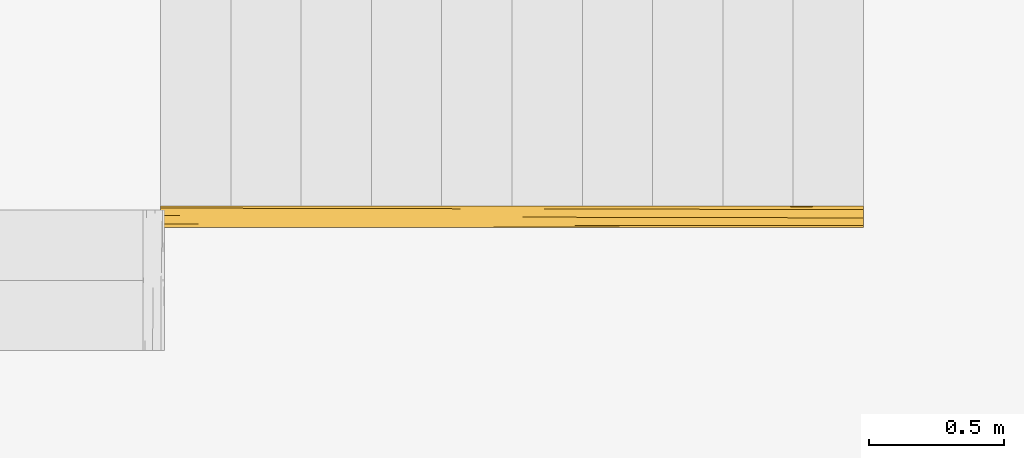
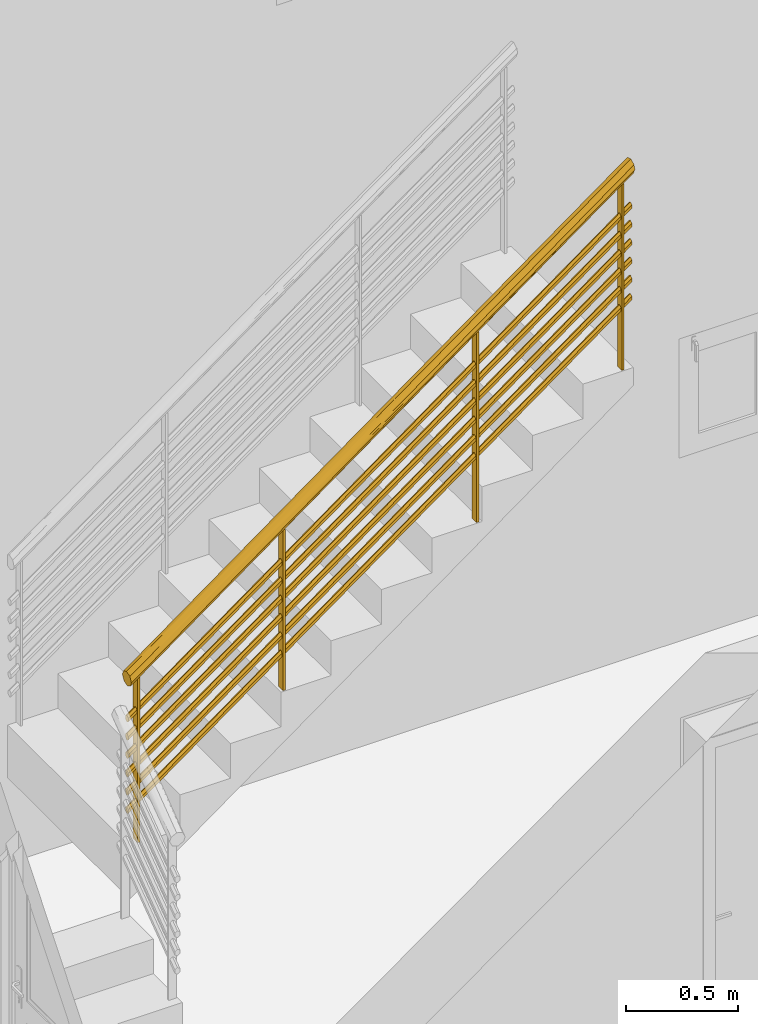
# One storey, part 17 of 20: 1 railing, 1 element without a shape of its own.
"""IFC2X3 building model written with IfcOpenShell, lengths in metres."""

from ifc_helpers import new_model, entity, si_unit, converted_unit, derived_unit, direction, frame, origin, place, context, subcontext, project, spatial, faceted_brep, element, aggregate, save


model = new_model("IFC2X3")

# Units and contexts
model_context = context("Model", 3, precision=1e-05, world=origin(), true_north=direction((6.12303176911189e-17, 1.0)))
body_context = subcontext(model_context, "Body", "Model", "MODEL_VIEW")
ifc_project = project(units=[si_unit("LENGTHUNIT", "METRE"), si_unit("AREAUNIT", "SQUARE_METRE"), si_unit("VOLUMEUNIT", "CUBIC_METRE"), converted_unit("PLANEANGLEUNIT", "DEGREE", entity("IfcRatioMeasure", 0.0174532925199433), si_unit("PLANEANGLEUNIT", "RADIAN"), dimensions=[0, 0, 0, 0, 0, 0, 0]), si_unit("MASSUNIT", "GRAM", prefix="KILO"), derived_unit("MASSDENSITYUNIT", [(si_unit("MASSUNIT", "GRAM", prefix="KILO"), 1), (si_unit("LENGTHUNIT", "METRE"), -3)]), derived_unit("MOMENTOFINERTIAUNIT", [(si_unit("LENGTHUNIT", "METRE"), 4)]), si_unit("TIMEUNIT", "SECOND"), si_unit("FREQUENCYUNIT", "HERTZ"), si_unit("THERMODYNAMICTEMPERATUREUNIT", "DEGREE_CELSIUS"), derived_unit("THERMALTRANSMITTANCEUNIT", [(si_unit("MASSUNIT", "GRAM", prefix="KILO"), 1), (si_unit("THERMODYNAMICTEMPERATUREUNIT", "KELVIN"), -1), (si_unit("TIMEUNIT", "SECOND"), -3)]), derived_unit("VOLUMETRICFLOWRATEUNIT", [(si_unit("LENGTHUNIT", "METRE"), 3), (si_unit("TIMEUNIT", "SECOND"), -1)]), si_unit("ELECTRICCURRENTUNIT", "AMPERE"), si_unit("ELECTRICVOLTAGEUNIT", "VOLT"), si_unit("POWERUNIT", "WATT"), si_unit("FORCEUNIT", "NEWTON", prefix="KILO"), si_unit("ILLUMINANCEUNIT", "LUX"), si_unit("LUMINOUSFLUXUNIT", "LUMEN"), si_unit("LUMINOUSINTENSITYUNIT", "CANDELA"), derived_unit("USERDEFINED", [(si_unit("MASSUNIT", "GRAM", prefix="KILO"), -1), (si_unit("LENGTHUNIT", "METRE"), -2), (si_unit("TIMEUNIT", "SECOND"), 3), (si_unit("LUMINOUSFLUXUNIT", "LUMEN"), 1)]), derived_unit("LINEARVELOCITYUNIT", [(si_unit("LENGTHUNIT", "METRE"), 1), (si_unit("TIMEUNIT", "SECOND"), -1)]), si_unit("PRESSUREUNIT", "PASCAL"), derived_unit("USERDEFINED", [(si_unit("LENGTHUNIT", "METRE"), -2), (si_unit("MASSUNIT", "GRAM", prefix="KILO"), 1), (si_unit("TIMEUNIT", "SECOND"), -2)]), derived_unit("LINEARFORCEUNIT", [(si_unit("MASSUNIT", "GRAM", prefix="KILO"), 1), (si_unit("LENGTHUNIT", "METRE"), 1), (si_unit("TIMEUNIT", "SECOND"), -2), (si_unit("LENGTHUNIT", "METRE"), -1)]), derived_unit("PLANARFORCEUNIT", [(si_unit("MASSUNIT", "GRAM", prefix="KILO"), 1), (si_unit("LENGTHUNIT", "METRE"), 1), (si_unit("TIMEUNIT", "SECOND"), -2), (si_unit("LENGTHUNIT", "METRE"), -2)])], contexts=[model_context])

# Site, building, storey
site_placement = place(None, origin())
site = spatial("IfcSite", under=ifc_project, at=site_placement, Name="Surface", CompositionType="ELEMENT")
building_placement = place(site_placement, origin())
building = spatial("IfcBuilding", under=site, at=building_placement, CompositionType="ELEMENT")
storey_placement = place(building_placement, origin())
storey = spatial("IfcBuildingStorey", under=building, at=storey_placement, Name="Niveau rdc", CompositionType="ELEMENT", Elevation=-1.94916083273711e-14)

# Stair, railing
stair_placement = place(storey_placement, origin())
stair = element("IfcStair", 1, at=stair_placement, inside=storey, Name="Escalier coulé sur place:Escalier", ObjectType="Escalier coulé sur place:Monobloc", ShapeType="NOTDEFINED")
railing_placement = place(stair_placement, frame((2.97197986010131, 5.90104310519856, 0.757142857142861)))
railing = element("IfcRailing", 2, at=railing_placement, Name="Garde-corps:Type Bateau", ObjectType="Garde-corps:Type Bateau", PredefinedType="NOTDEFINED", context=body_context, shape_type="Brep", body=[
    faceted_brep([(0.793999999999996, 0.0615952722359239, 1.44511960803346), (0.793999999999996, 0.0215952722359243, 1.44511960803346), (0.805999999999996, 0.0215952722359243, 1.44511960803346), (0.805999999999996, 0.0615952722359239, 1.44511960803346), (0.793999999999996, 0.0615952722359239, 0.567857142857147), (0.805999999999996, 0.0615952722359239, 0.567857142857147), (0.805999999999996, 0.0215952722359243, 0.567857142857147), (0.793999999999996, 0.0215952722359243, 0.567857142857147)], [[[0, 1, 2, 3]], [[4, 5, 6, 7]], [[3, 5, 4, 0]], [[2, 6, 5, 3]], [[1, 7, 6, 2]], [[0, 4, 7, 1]]]),
    faceted_brep([(1.794, 0.0615952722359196, 2.17314158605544), (1.794, 0.02159527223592, 2.17314158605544), (1.806, 0.02159527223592, 2.17314158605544), (1.806, 0.0615952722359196, 2.17314158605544), (1.794, 0.0615952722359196, 1.13571428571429), (1.806, 0.0615952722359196, 1.13571428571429), (1.806, 0.02159527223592, 1.13571428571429), (1.794, 0.02159527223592, 1.13571428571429)], [[[0, 1, 2, 3]], [[4, 5, 6, 7]], [[3, 5, 4, 0]], [[2, 6, 5, 3]], [[1, 7, 6, 2]], [[0, 4, 7, 1]]]),
    faceted_brep([(0.0439999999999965, 0.0615952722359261, 0.899103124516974), (0.0439999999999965, 0.0215952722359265, 0.899103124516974), (0.0559999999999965, 0.0215952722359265, 0.899103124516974), (0.0559999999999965, 0.0615952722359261, 0.899103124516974), (0.0439999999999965, 0.0615952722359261, 0.0), (0.0559999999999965, 0.0615952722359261, 0.0), (0.0559999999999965, 0.0215952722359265, 0.0), (0.0439999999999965, 0.0215952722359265, 0.0)], [[[0, 1, 2, 3]], [[4, 5, 6, 7]], [[3, 5, 4, 0]], [[2, 6, 5, 3]], [[1, 7, 6, 2]], [[0, 4, 7, 1]]]),
    faceted_brep([(2.544, 0.0615952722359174, 2.71915806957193), (2.544, 0.0215952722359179, 2.71915806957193), (2.556, 0.0215952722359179, 2.71915806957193), (2.556, 0.0615952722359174, 2.71915806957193), (2.544, 0.0615952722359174, 1.70357142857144), (2.556, 0.0615952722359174, 1.70357142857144), (2.556, 0.0215952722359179, 1.70357142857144), (2.544, 0.0215952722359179, 1.70357142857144)], [[[0, 1, 2, 3]], [[4, 5, 6, 7]], [[3, 5, 4, 0]], [[2, 6, 5, 3]], [[1, 7, 6, 2]], [[0, 4, 7, 1]]]),
    faceted_brep([(2.6, 0.0286048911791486, 2.56502603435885), (2.6, 0.0318524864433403, 2.56270677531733), (2.6, 0.035100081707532, 2.5603875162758), (2.6, 0.0383476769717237, 2.55806825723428), (2.6, 0.0415952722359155, 2.55574899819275), (2.6, 0.0448428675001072, 2.55806825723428), (2.6, 0.0480904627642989, 2.5603875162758), (2.6, 0.0513380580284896, 2.56270677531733), (2.6, 0.0545856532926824, 2.56502603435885), (2.6, 0.0545856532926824, 2.5696645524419), (2.6, 0.0545856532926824, 2.57430307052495), (2.6, 0.0545856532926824, 2.57894158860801), (2.6, 0.0545856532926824, 2.58358010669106), (2.6, 0.0513380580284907, 2.58589936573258), (2.6, 0.0480904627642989, 2.58821862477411), (2.6, 0.0444889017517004, 2.59079066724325), (2.6, 0.0415952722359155, 2.59285714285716), (2.6, 0.0387016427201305, 2.59079066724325), (2.6, 0.0358080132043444, 2.58872419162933), (2.6, 0.0322064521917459, 2.5861521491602), (2.6, 0.0286048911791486, 2.58358010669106), (2.6, 0.0286048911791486, 2.57894158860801), (2.6, 0.0286048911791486, 2.57430307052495), (2.6, 0.0286048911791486, 2.5696645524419), (0.0, 0.0286048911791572, 0.672168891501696), (0.0, 0.0286048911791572, 0.676807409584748), (0.0, 0.0286048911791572, 0.681445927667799), (0.0, 0.0286048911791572, 0.68608444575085), (0.0, 0.0286048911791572, 0.690722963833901), (0.0, 0.0318524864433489, 0.693042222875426), (0.0, 0.0351000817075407, 0.695361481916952), (0.0, 0.0383476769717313, 0.697680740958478), (0.0, 0.0415952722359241, 0.700000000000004), (0.0, 0.0448428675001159, 0.697680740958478), (0.0, 0.0480904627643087, 0.695361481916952), (0.0, 0.0513380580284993, 0.693042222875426), (0.0, 0.054585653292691, 0.690722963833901), (0.0, 0.054585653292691, 0.68608444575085), (0.0, 0.054585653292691, 0.681445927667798), (0.0, 0.054585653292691, 0.676807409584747), (0.0, 0.054585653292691, 0.672168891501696), (0.0, 0.0509840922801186, 0.669596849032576), (0.0, 0.047382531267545, 0.667024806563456), (0.0, 0.0444889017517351, 0.664958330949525), (0.0, 0.0415952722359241, 0.662891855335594), (0.0, 0.0387016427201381, 0.664958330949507), (0.0, 0.0351000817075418, 0.667530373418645), (0.0, 0.0318524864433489, 0.669849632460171)], [[[0, 1, 2, 3, 4, 5, 6, 7, 8, 9, 10, 11, 12, 13, 14, 15, 16, 17, 18, 19, 20, 21, 22, 23]], [[24, 25, 26, 27, 28, 29, 30, 31, 32, 33, 34, 35, 36, 37, 38, 39, 40, 41, 42, 43, 44, 45, 46, 47]], [[6, 5, 4, 44, 43, 42, 41, 40, 8, 7]], [[14, 13, 12, 36, 35, 34, 33, 32, 16, 15]], [[11, 10, 9, 8, 40, 39, 38, 37, 36, 12]], [[18, 17, 16, 32, 31, 30, 29, 28, 20, 19]], [[22, 21, 20, 28, 27, 26, 25, 24, 0, 23]], [[45, 44, 4, 3, 2, 1, 0, 24, 47, 46]]]),
    faceted_brep([(2.6, 0.0286048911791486, 2.46502603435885), (2.6, 0.0318524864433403, 2.46270677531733), (2.6, 0.035100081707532, 2.4603875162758), (2.6, 0.0383476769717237, 2.45806825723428), (2.6, 0.0415952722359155, 2.45574899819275), (2.6, 0.0448428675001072, 2.45806825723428), (2.6, 0.0480904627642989, 2.4603875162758), (2.6, 0.0513380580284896, 2.46270677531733), (2.6, 0.0545856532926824, 2.46502603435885), (2.6, 0.0545856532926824, 2.4696645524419), (2.6, 0.0545856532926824, 2.47430307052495), (2.6, 0.0545856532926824, 2.47894158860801), (2.6, 0.0545856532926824, 2.48358010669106), (2.6, 0.0513380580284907, 2.48589936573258), (2.6, 0.0480904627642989, 2.48821862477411), (2.6, 0.0444889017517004, 2.49079066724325), (2.6, 0.0415952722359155, 2.49285714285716), (2.6, 0.0387016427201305, 2.49079066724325), (2.6, 0.0358080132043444, 2.48872419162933), (2.6, 0.0322064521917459, 2.4861521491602), (2.6, 0.0286048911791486, 2.48358010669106), (2.6, 0.0286048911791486, 2.47894158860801), (2.6, 0.0286048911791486, 2.47430307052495), (2.6, 0.0286048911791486, 2.4696645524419), (0.0, 0.0286048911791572, 0.572168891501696), (0.0, 0.0286048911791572, 0.576807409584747), (0.0, 0.0286048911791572, 0.581445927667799), (0.0, 0.0286048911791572, 0.58608444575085), (0.0, 0.0286048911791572, 0.590722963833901), (0.0, 0.0318524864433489, 0.593042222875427), (0.0, 0.0351000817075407, 0.595361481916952), (0.0, 0.0383476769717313, 0.597680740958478), (0.0, 0.0415952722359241, 0.600000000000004), (0.0, 0.0448428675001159, 0.597680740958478), (0.0, 0.0480904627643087, 0.595361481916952), (0.0, 0.0513380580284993, 0.593042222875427), (0.0, 0.054585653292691, 0.590722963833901), (0.0, 0.054585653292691, 0.58608444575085), (0.0, 0.054585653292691, 0.581445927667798), (0.0, 0.054585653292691, 0.576807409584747), (0.0, 0.054585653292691, 0.572168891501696), (0.0, 0.0509840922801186, 0.569596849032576), (0.0, 0.047382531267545, 0.567024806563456), (0.0, 0.0444889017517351, 0.564958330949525), (0.0, 0.0415952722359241, 0.562891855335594), (0.0, 0.0387016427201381, 0.564958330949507), (0.0, 0.0351000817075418, 0.567530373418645), (0.0, 0.0318524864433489, 0.569849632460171)], [[[0, 1, 2, 3, 4, 5, 6, 7, 8, 9, 10, 11, 12, 13, 14, 15, 16, 17, 18, 19, 20, 21, 22, 23]], [[24, 25, 26, 27, 28, 29, 30, 31, 32, 33, 34, 35, 36, 37, 38, 39, 40, 41, 42, 43, 44, 45, 46, 47]], [[6, 5, 4, 44, 43, 42, 41, 40, 8, 7]], [[14, 13, 12, 36, 35, 34, 33, 32, 16, 15]], [[11, 10, 9, 8, 40, 39, 38, 37, 36, 12]], [[18, 17, 16, 32, 31, 30, 29, 28, 20, 19]], [[22, 21, 20, 28, 27, 26, 25, 24, 0, 23]], [[45, 44, 4, 3, 2, 1, 0, 24, 47, 46]]]),
    faceted_brep([(2.6, 0.0286048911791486, 2.36502603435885), (2.6, 0.0318524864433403, 2.36270677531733), (2.6, 0.035100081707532, 2.3603875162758), (2.6, 0.0383476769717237, 2.35806825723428), (2.6, 0.0415952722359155, 2.35574899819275), (2.6, 0.0448428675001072, 2.35806825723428), (2.6, 0.0480904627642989, 2.3603875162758), (2.6, 0.0513380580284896, 2.36270677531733), (2.6, 0.0545856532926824, 2.36502603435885), (2.6, 0.0545856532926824, 2.3696645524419), (2.6, 0.0545856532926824, 2.37430307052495), (2.6, 0.0545856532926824, 2.37894158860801), (2.6, 0.0545856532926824, 2.38358010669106), (2.6, 0.0513380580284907, 2.38589936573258), (2.6, 0.0480904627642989, 2.38821862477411), (2.6, 0.0444889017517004, 2.39079066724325), (2.6, 0.0415952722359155, 2.39285714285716), (2.6, 0.0387016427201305, 2.39079066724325), (2.6, 0.0358080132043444, 2.38872419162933), (2.6, 0.0322064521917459, 2.3861521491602), (2.6, 0.0286048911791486, 2.38358010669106), (2.6, 0.0286048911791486, 2.37894158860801), (2.6, 0.0286048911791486, 2.37430307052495), (2.6, 0.0286048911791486, 2.3696645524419), (0.0, 0.0286048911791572, 0.472168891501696), (0.0, 0.0286048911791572, 0.476807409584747), (0.0, 0.0286048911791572, 0.481445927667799), (0.0, 0.0286048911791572, 0.48608444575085), (0.0, 0.0286048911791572, 0.490722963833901), (0.0, 0.0318524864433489, 0.493042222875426), (0.0, 0.0351000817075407, 0.495361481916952), (0.0, 0.0383476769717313, 0.497680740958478), (0.0, 0.0415952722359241, 0.500000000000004), (0.0, 0.0448428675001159, 0.497680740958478), (0.0, 0.0480904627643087, 0.495361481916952), (0.0, 0.0513380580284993, 0.493042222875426), (0.0, 0.054585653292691, 0.490722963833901), (0.0, 0.054585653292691, 0.48608444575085), (0.0, 0.054585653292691, 0.481445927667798), (0.0, 0.054585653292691, 0.476807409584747), (0.0, 0.054585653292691, 0.472168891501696), (0.0, 0.0509840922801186, 0.469596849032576), (0.0, 0.047382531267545, 0.467024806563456), (0.0, 0.0444889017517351, 0.464958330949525), (0.0, 0.0415952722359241, 0.462891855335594), (0.0, 0.0387016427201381, 0.464958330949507), (0.0, 0.0351000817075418, 0.467530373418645), (0.0, 0.0318524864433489, 0.469849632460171)], [[[0, 1, 2, 3, 4, 5, 6, 7, 8, 9, 10, 11, 12, 13, 14, 15, 16, 17, 18, 19, 20, 21, 22, 23]], [[24, 25, 26, 27, 28, 29, 30, 31, 32, 33, 34, 35, 36, 37, 38, 39, 40, 41, 42, 43, 44, 45, 46, 47]], [[6, 5, 4, 44, 43, 42, 41, 40, 8, 7]], [[14, 13, 12, 36, 35, 34, 33, 32, 16, 15]], [[11, 10, 9, 8, 40, 39, 38, 37, 36, 12]], [[18, 17, 16, 32, 31, 30, 29, 28, 20, 19]], [[22, 21, 20, 28, 27, 26, 25, 24, 0, 23]], [[45, 44, 4, 3, 2, 1, 0, 24, 47, 46]]]),
    faceted_brep([(2.6, 0.0286048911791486, 2.26502603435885), (2.6, 0.0318524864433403, 2.26270677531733), (2.6, 0.035100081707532, 2.2603875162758), (2.6, 0.0383476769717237, 2.25806825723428), (2.6, 0.0415952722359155, 2.25574899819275), (2.6, 0.0448428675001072, 2.25806825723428), (2.6, 0.0480904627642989, 2.2603875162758), (2.6, 0.0513380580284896, 2.26270677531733), (2.6, 0.0545856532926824, 2.26502603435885), (2.6, 0.0545856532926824, 2.2696645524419), (2.6, 0.0545856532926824, 2.27430307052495), (2.6, 0.0545856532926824, 2.27894158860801), (2.6, 0.0545856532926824, 2.28358010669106), (2.6, 0.0513380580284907, 2.28589936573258), (2.6, 0.0480904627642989, 2.28821862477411), (2.6, 0.0444889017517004, 2.29079066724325), (2.6, 0.0415952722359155, 2.29285714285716), (2.6, 0.0387016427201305, 2.29079066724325), (2.6, 0.0358080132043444, 2.28872419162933), (2.6, 0.0322064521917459, 2.2861521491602), (2.6, 0.0286048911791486, 2.28358010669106), (2.6, 0.0286048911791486, 2.27894158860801), (2.6, 0.0286048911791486, 2.27430307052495), (2.6, 0.0286048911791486, 2.2696645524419), (0.0, 0.0286048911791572, 0.372168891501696), (0.0, 0.0286048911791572, 0.376807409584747), (0.0, 0.0286048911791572, 0.381445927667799), (0.0, 0.0286048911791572, 0.38608444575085), (0.0, 0.0286048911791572, 0.390722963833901), (0.0, 0.0318524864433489, 0.393042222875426), (0.0, 0.0351000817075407, 0.395361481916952), (0.0, 0.0383476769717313, 0.397680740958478), (0.0, 0.0415952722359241, 0.400000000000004), (0.0, 0.0448428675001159, 0.397680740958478), (0.0, 0.0480904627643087, 0.395361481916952), (0.0, 0.0513380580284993, 0.393042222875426), (0.0, 0.054585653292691, 0.390722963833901), (0.0, 0.054585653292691, 0.38608444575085), (0.0, 0.054585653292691, 0.381445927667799), (0.0, 0.054585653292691, 0.376807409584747), (0.0, 0.054585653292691, 0.372168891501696), (0.0, 0.0509840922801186, 0.369596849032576), (0.0, 0.047382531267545, 0.367024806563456), (0.0, 0.0444889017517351, 0.364958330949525), (0.0, 0.0415952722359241, 0.362891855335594), (0.0, 0.0387016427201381, 0.364958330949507), (0.0, 0.0351000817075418, 0.367530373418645), (0.0, 0.0318524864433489, 0.369849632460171)], [[[0, 1, 2, 3, 4, 5, 6, 7, 8, 9, 10, 11, 12, 13, 14, 15, 16, 17, 18, 19, 20, 21, 22, 23]], [[24, 25, 26, 27, 28, 29, 30, 31, 32, 33, 34, 35, 36, 37, 38, 39, 40, 41, 42, 43, 44, 45, 46, 47]], [[6, 5, 4, 44, 43, 42, 41, 40, 8, 7]], [[14, 13, 12, 36, 35, 34, 33, 32, 16, 15]], [[11, 10, 9, 8, 40, 39, 38, 37, 36, 12]], [[18, 17, 16, 32, 31, 30, 29, 28, 20, 19]], [[22, 21, 20, 28, 27, 26, 25, 24, 0, 23]], [[45, 44, 4, 3, 2, 1, 0, 24, 47, 46]]]),
    faceted_brep([(2.6, 0.0286048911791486, 2.16502603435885), (2.6, 0.0318524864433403, 2.16270677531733), (2.6, 0.035100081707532, 2.1603875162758), (2.6, 0.0383476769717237, 2.15806825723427), (2.6, 0.0415952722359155, 2.15574899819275), (2.6, 0.0448428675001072, 2.15806825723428), (2.6, 0.0480904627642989, 2.1603875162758), (2.6, 0.0513380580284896, 2.16270677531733), (2.6, 0.0545856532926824, 2.16502603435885), (2.6, 0.0545856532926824, 2.1696645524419), (2.6, 0.0545856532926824, 2.17430307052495), (2.6, 0.0545856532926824, 2.17894158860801), (2.6, 0.0545856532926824, 2.18358010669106), (2.6, 0.0513380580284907, 2.18589936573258), (2.6, 0.0480904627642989, 2.18821862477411), (2.6, 0.0444889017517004, 2.19079066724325), (2.6, 0.0415952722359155, 2.19285714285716), (2.6, 0.0387016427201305, 2.19079066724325), (2.6, 0.0358080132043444, 2.18872419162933), (2.6, 0.0322064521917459, 2.1861521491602), (2.6, 0.0286048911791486, 2.18358010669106), (2.6, 0.0286048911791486, 2.17894158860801), (2.6, 0.0286048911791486, 2.17430307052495), (2.6, 0.0286048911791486, 2.1696645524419), (0.0, 0.0286048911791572, 0.272168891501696), (0.0, 0.0286048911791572, 0.276807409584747), (0.0, 0.0286048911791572, 0.281445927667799), (0.0, 0.0286048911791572, 0.28608444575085), (0.0, 0.0286048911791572, 0.290722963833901), (0.0, 0.0318524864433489, 0.293042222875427), (0.0, 0.0351000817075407, 0.295361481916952), (0.0, 0.0383476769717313, 0.297680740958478), (0.0, 0.0415952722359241, 0.300000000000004), (0.0, 0.0448428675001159, 0.297680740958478), (0.0, 0.0480904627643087, 0.295361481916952), (0.0, 0.0513380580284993, 0.293042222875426), (0.0, 0.054585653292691, 0.290722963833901), (0.0, 0.054585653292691, 0.28608444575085), (0.0, 0.054585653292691, 0.281445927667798), (0.0, 0.054585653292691, 0.276807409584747), (0.0, 0.054585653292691, 0.272168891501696), (0.0, 0.0509840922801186, 0.269596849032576), (0.0, 0.047382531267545, 0.267024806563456), (0.0, 0.0444889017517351, 0.264958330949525), (0.0, 0.0415952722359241, 0.262891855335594), (0.0, 0.0387016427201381, 0.264958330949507), (0.0, 0.0351000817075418, 0.267530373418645), (0.0, 0.0318524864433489, 0.269849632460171)], [[[0, 1, 2, 3, 4, 5, 6, 7, 8, 9, 10, 11, 12, 13, 14, 15, 16, 17, 18, 19, 20, 21, 22, 23]], [[24, 25, 26, 27, 28, 29, 30, 31, 32, 33, 34, 35, 36, 37, 38, 39, 40, 41, 42, 43, 44, 45, 46, 47]], [[6, 5, 4, 44, 43, 42, 41, 40, 8, 7]], [[14, 13, 12, 36, 35, 34, 33, 32, 16, 15]], [[11, 10, 9, 8, 40, 39, 38, 37, 36, 12]], [[18, 17, 16, 32, 31, 30, 29, 28, 20, 19]], [[22, 21, 20, 28, 27, 26, 25, 24, 0, 23]], [[45, 44, 4, 3, 2, 1, 0, 24, 47, 46]]]),
    faceted_brep([(2.6, 0.0286048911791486, 2.06502603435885), (2.6, 0.0318524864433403, 2.06270677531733), (2.6, 0.035100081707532, 2.0603875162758), (2.6, 0.0383476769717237, 2.05806825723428), (2.6, 0.0415952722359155, 2.05574899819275), (2.6, 0.0448428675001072, 2.05806825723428), (2.6, 0.0480904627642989, 2.0603875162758), (2.6, 0.0513380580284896, 2.06270677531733), (2.6, 0.0545856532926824, 2.06502603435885), (2.6, 0.0545856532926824, 2.0696645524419), (2.6, 0.0545856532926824, 2.07430307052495), (2.6, 0.0545856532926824, 2.07894158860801), (2.6, 0.0545856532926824, 2.08358010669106), (2.6, 0.0513380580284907, 2.08589936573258), (2.6, 0.0480904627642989, 2.08821862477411), (2.6, 0.0444889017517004, 2.09079066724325), (2.6, 0.0415952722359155, 2.09285714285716), (2.6, 0.0387016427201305, 2.09079066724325), (2.6, 0.0358080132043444, 2.08872419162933), (2.6, 0.0322064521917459, 2.0861521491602), (2.6, 0.0286048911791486, 2.08358010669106), (2.6, 0.0286048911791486, 2.07894158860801), (2.6, 0.0286048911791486, 2.07430307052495), (2.6, 0.0286048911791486, 2.0696645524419), (0.0, 0.0286048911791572, 0.172168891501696), (0.0, 0.0286048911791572, 0.176807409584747), (0.0, 0.0286048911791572, 0.181445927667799), (0.0, 0.0286048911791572, 0.18608444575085), (0.0, 0.0286048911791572, 0.190722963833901), (0.0, 0.0318524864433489, 0.193042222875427), (0.0, 0.0351000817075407, 0.195361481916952), (0.0, 0.0383476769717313, 0.197680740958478), (0.0, 0.0415952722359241, 0.200000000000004), (0.0, 0.0448428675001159, 0.197680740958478), (0.0, 0.0480904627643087, 0.195361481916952), (0.0, 0.0513380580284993, 0.193042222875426), (0.0, 0.054585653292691, 0.190722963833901), (0.0, 0.054585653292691, 0.18608444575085), (0.0, 0.054585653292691, 0.181445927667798), (0.0, 0.054585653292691, 0.176807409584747), (0.0, 0.054585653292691, 0.172168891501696), (0.0, 0.0509840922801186, 0.169596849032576), (0.0, 0.047382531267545, 0.167024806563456), (0.0, 0.0444889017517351, 0.164958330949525), (0.0, 0.0415952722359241, 0.162891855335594), (0.0, 0.0387016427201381, 0.164958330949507), (0.0, 0.0351000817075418, 0.167530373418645), (0.0, 0.0318524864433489, 0.169849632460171)], [[[0, 1, 2, 3, 4, 5, 6, 7, 8, 9, 10, 11, 12, 13, 14, 15, 16, 17, 18, 19, 20, 21, 22, 23]], [[24, 25, 26, 27, 28, 29, 30, 31, 32, 33, 34, 35, 36, 37, 38, 39, 40, 41, 42, 43, 44, 45, 46, 47]], [[6, 5, 4, 44, 43, 42, 41, 40, 8, 7]], [[14, 13, 12, 36, 35, 34, 33, 32, 16, 15]], [[11, 10, 9, 8, 40, 39, 38, 37, 36, 12]], [[18, 17, 16, 32, 31, 30, 29, 28, 20, 19]], [[22, 21, 20, 28, 27, 26, 25, 24, 0, 23]], [[45, 44, 4, 3, 2, 1, 0, 24, 47, 46]]]),
    faceted_brep([(0.0, 0.0148300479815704, 0.927576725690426), (0.0, 0.0303032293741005, 0.932240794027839), (0.0, 0.0457764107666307, 0.936904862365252), (0.0, 0.0598661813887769, 0.929358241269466), (0.0, 0.073955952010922, 0.921811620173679), (0.0, 0.0777756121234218, 0.910905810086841), (0.0, 0.0815952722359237, 0.900000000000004), (0.0, 0.0749778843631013, 0.886211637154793), (0.0, 0.068360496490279, 0.872423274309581), (0.0, 0.0528873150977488, 0.867759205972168), (0.0, 0.0451507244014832, 0.865427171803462), (0.0, 0.0374141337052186, 0.863095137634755), (0.0, 0.0233243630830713, 0.870641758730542), (0.0, 0.00923459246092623, 0.878188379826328), (0.0, 0.00541493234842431, 0.889094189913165), (0.0, 0.00159527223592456, 0.900000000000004), (0.0, 0.00821266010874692, 0.913788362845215), (2.6, 0.00821266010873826, 2.77906878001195), (2.6, 0.0148300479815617, 2.76528041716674), (2.6, 0.0303032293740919, 2.76061634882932), (2.6, 0.0457764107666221, 2.75595228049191), (2.6, 0.0598661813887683, 2.7634989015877), (2.6, 0.0739559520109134, 2.77104552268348), (2.6, 0.0777756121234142, 2.78195133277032), (2.6, 0.081595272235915, 2.79285714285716), (2.6, 0.0783872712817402, 2.79954151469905), (2.6, 0.0749778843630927, 2.80664550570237), (2.6, 0.0683604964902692, 2.82043386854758), (2.6, 0.0528873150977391, 2.825097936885), (2.6, 0.0374141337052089, 2.82976200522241), (2.6, 0.0303692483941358, 2.82598869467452), (2.6, 0.0233243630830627, 2.82221538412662), (2.6, 0.00923459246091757, 2.81466876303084), (2.6, 0.00541493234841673, 2.803762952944), (2.6, 0.0015952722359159, 2.79285714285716), (1.30461191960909, 0.078881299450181, 1.8363503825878), (1.36550573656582, 0.0567266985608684, 1.85976758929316), (1.38101750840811, 0.0663531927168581, 1.87626517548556), (1.08409295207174, 0.0739403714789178, 1.66741199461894), (1.02789690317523, 0.0815952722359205, 1.6483315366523), (1.57210767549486, 0.0815952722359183, 2.04452893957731), (1.4255882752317, 0.0200740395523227, 1.9065802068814), (1.136362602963, 0.0301947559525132, 1.69172791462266), (1.30065154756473, 0.0415845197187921, 1.80979476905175), (1.31383190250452, 0.0116906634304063, 1.83185378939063), (1.21445410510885, 0.00559717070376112, 1.76797057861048), (1.02789044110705, 0.00159527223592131, 1.64832683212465), (1.25063136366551, 0.00360537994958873, 1.82210262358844), (1.17317441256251, 0.00823615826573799, 1.77457295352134), (1.4620636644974, 0.0156189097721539, 1.99263297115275), (1.29941932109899, 0.0253416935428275, 1.87991235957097), (1.19065066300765, 0.0772494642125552, 1.7836412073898), (1.12573126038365, 0.0804958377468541, 1.72819750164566), (1.24935336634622, 0.0406156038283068, 1.8466537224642), (1.20733099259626, 0.0516459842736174, 1.81488112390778), (1.26873517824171, 0.0709152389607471, 1.84890915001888), (1.50287319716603, 0.0617902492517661, 2.02615620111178)], [[[0, 1, 2, 3, 4, 5, 6, 7, 8, 9, 10, 11, 12, 13, 14, 15, 16]], [[17, 18, 19, 20, 21, 22, 23, 24, 25, 26, 27, 28, 29, 30, 31, 32, 33, 34]], [[35, 7, 6]], [[9, 8, 36, 10]], [[22, 37, 38]], [[37, 36, 8]], [[21, 36, 37]], [[35, 6, 39, 40]], [[41, 42, 19]], [[38, 7, 35]], [[19, 42, 43]], [[44, 41, 18]], [[13, 45, 14]], [[8, 38, 37]], [[44, 12, 41]], [[38, 8, 7]], [[11, 43, 42]], [[17, 34, 46]], [[35, 23, 22]], [[11, 10, 43]], [[40, 24, 23]], [[21, 37, 22]], [[36, 21, 20]], [[36, 20, 43]], [[36, 43, 10]], [[43, 20, 19]], [[42, 12, 11]], [[12, 42, 41]], [[13, 12, 44]], [[18, 41, 19]], [[46, 15, 14]], [[44, 18, 17]], [[17, 45, 44]], [[38, 35, 22]], [[45, 17, 46]], [[23, 35, 40]], [[44, 45, 13]], [[14, 45, 46]], [[16, 47, 48]], [[0, 48, 49]], [[49, 31, 50]], [[31, 30, 50]], [[51, 52, 5]], [[2, 53, 54]], [[55, 27, 26]], [[55, 51, 4]], [[26, 52, 51]], [[47, 16, 15]], [[55, 26, 51]], [[5, 4, 51]], [[25, 24, 40, 39]], [[56, 55, 3]], [[56, 3, 54]], [[50, 0, 49]], [[27, 55, 56]], [[52, 39, 6]], [[54, 53, 28]], [[55, 4, 3]], [[56, 28, 27]], [[28, 56, 54]], [[52, 6, 5]], [[29, 28, 53]], [[2, 54, 3]], [[30, 29, 53]], [[53, 2, 1]], [[1, 0, 50]], [[53, 50, 30]], [[1, 50, 53]], [[49, 32, 31]], [[32, 49, 48]], [[33, 48, 47]], [[16, 48, 0]], [[46, 34, 47, 15]], [[33, 32, 48]], [[33, 47, 34]], [[52, 25, 39]], [[25, 52, 26]]]),
])
aggregate(stair, [railing])

save(model, "model.ifc")
